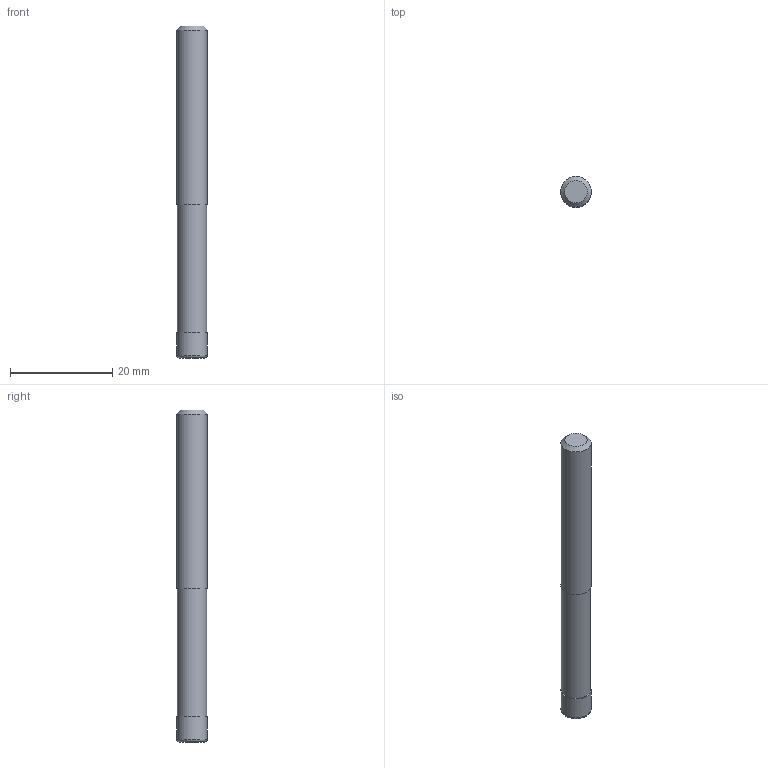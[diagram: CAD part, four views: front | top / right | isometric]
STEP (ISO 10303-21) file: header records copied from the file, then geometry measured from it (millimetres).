
FILE_DESCRIPTION((''),'2;1');
FILE_NAME('C:\Users\nsx150\AppData\Local\Temp\Mastercam 2021\8MCJJJGUOI\TEMP.step','2022-10-12T10:46:56',(''),(''),'STEP Write','Mastercam 2021 ... CNC Software, Inc.','');
FILE_SCHEMA(('AUTOMOTIVE_DESIGN'));
Length unit declared in the file: millimetre
Products named in the file (1): None
Bounding box: 6 x 6 x 65 mm (x, y, z)
Volume: 1762.4 mm3; surface area: 1300.9 mm2
Topology: 2 solids, 2 shells, 10 faces, 13 edges, 8 vertices
Faces by surface type: plane 5, cylinder 3, torus 1, cone 1
Full cylindrical faces by diameter (mm): 5.7 x1, 6 x2
Entity records: 232 total; most frequent: DIRECTION 40, CARTESIAN_POINT 28, AXIS2_PLACEMENT_3D 20, ORIENTED_EDGE 16, EDGE_LOOP 16, STYLED_ITEM 13, ADVANCED_FACE 10, FACE_BOUND 10
